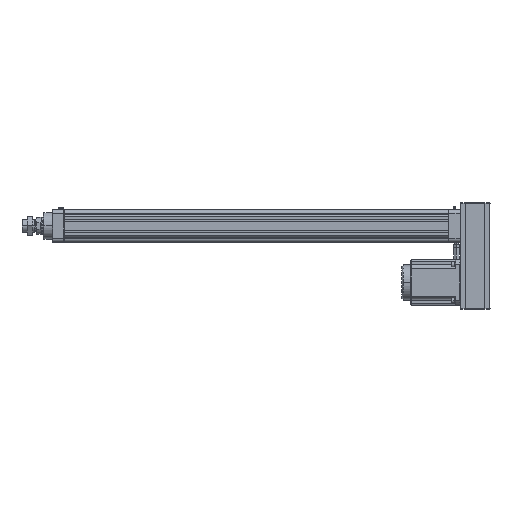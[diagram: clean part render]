
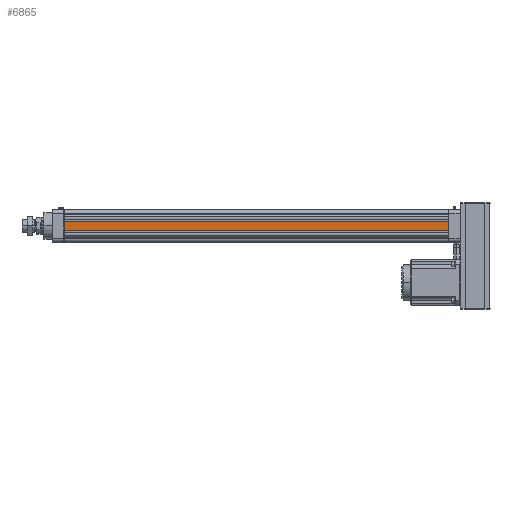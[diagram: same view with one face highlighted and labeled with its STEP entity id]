
A CAD part, left-side view. The second image highlights one B-rep face of the part: STEP entity #6865.
In plain terms, the highlighted planar face has unit normal (-1, 0, 0).
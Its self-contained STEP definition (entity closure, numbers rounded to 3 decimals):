
#3174=DIRECTION('',(0.,0.,1.));
#3175=VECTOR('',#3174,27.8);
#3176=CARTESIAN_POINT('',(-46.5,-544.,-13.9));
#3177=LINE('',#3176,#3175);
#3876=DIRECTION('',(0.,0.,1.));
#3877=VECTOR('',#3876,27.8);
#3878=CARTESIAN_POINT('',(-46.5,544.,-13.9));
#3879=LINE('',#3878,#3877);
#4325=DIRECTION('',(0.,-1.,0.));
#4326=VECTOR('',#4325,1088.);
#4327=CARTESIAN_POINT('',(-46.5,544.,-13.9));
#4328=LINE('',#4327,#4326);
#4329=DIRECTION('',(0.,1.,0.));
#4330=VECTOR('',#4329,1088.);
#4331=CARTESIAN_POINT('',(-46.5,-544.,13.9));
#4332=LINE('',#4331,#4330);
#5236=CARTESIAN_POINT('',(-46.5,-544.,-13.9));
#5238=VERTEX_POINT('',#5236);
#5252=CARTESIAN_POINT('',(-46.5,544.,-13.9));
#5254=VERTEX_POINT('',#5252);
#5421=CARTESIAN_POINT('',(-46.5,-544.,13.9));
#5422=VERTEX_POINT('',#5421);
#5437=CARTESIAN_POINT('',(-46.5,544.,13.9));
#5438=VERTEX_POINT('',#5437);
#6852=CARTESIAN_POINT('',(-46.5,-544.,-46.5));
#6853=DIRECTION('',(-1.,0.,0.));
#6854=DIRECTION('',(0.,0.,1.));
#6855=AXIS2_PLACEMENT_3D('',#6852,#6853,#6854);
#6856=PLANE('',#6855);
#6858=ORIENTED_EDGE('',*,*,#6857,.F.);
#6859=ORIENTED_EDGE('',*,*,#6357,.T.);
#6861=ORIENTED_EDGE('',*,*,#6860,.F.);
#6862=ORIENTED_EDGE('',*,*,#5868,.F.);
#6863=EDGE_LOOP('',(#6858,#6859,#6861,#6862));
#6864=FACE_OUTER_BOUND('',#6863,.F.);
#6865=ADVANCED_FACE('',(#6864),#6856,.T.);
#5868=EDGE_CURVE('',#5238,#5422,#3177,.T.);
#6357=EDGE_CURVE('',#5254,#5438,#3879,.T.);
#6857=EDGE_CURVE('',#5254,#5238,#4328,.T.);
#6860=EDGE_CURVE('',#5422,#5438,#4332,.T.);
